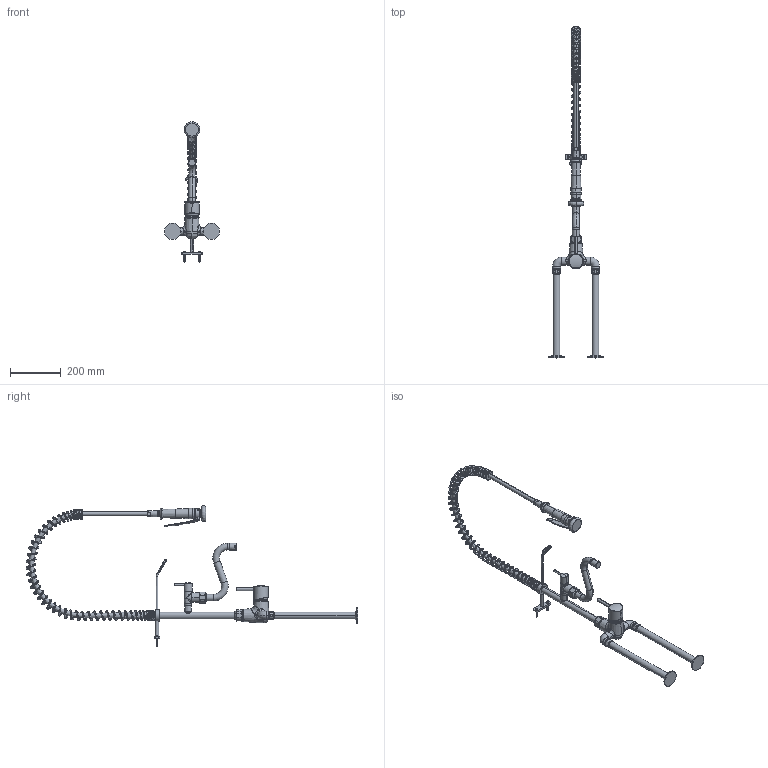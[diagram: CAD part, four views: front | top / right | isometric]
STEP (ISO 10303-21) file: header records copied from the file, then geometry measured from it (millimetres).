
FILE_DESCRIPTION((''),'2;1');
FILE_NAME('24_503_124_XXX','2012-01-03T',('HEF'),(''),'PRO/ENGINEER BY PARAMETRIC TECHNOLOGY CORPORATION, 2011080','PRO/ENGINEER BY PARAMETRIC TECHNOLOGY CORPORATION, 2011080','');
FILE_SCHEMA(('AUTOMOTIVE_DESIGN_CC2 { 1 2 10303 214 -1 1 5 2 }'));
Products named in the file (1): 24_503_124_XXX
Bounding box: 218 x 1304.39 x 552.98 mm (x, y, z)
Volume: 2163325.2 mm3; surface area: 447531.4 mm2
Topology: 4 solids, 5 shells, 829 faces, 2027 edges, 1223 vertices
Faces by surface type: bspline 236, cylinder 216, plane 160, torus 136, cone 64, sphere 11, revolution 6
Entity records: 77135 total; most frequent: CARTESIAN_POINT 52317, ORIENTED_EDGE 4034, DIRECTION 3120, EDGE_CURVE 2017, AXIS2_PLACEMENT_3D 1311, VERTEX_POINT 1223, FILL_AREA_STYLE_COLOUR 1139, FILL_AREA_STYLE 1139
